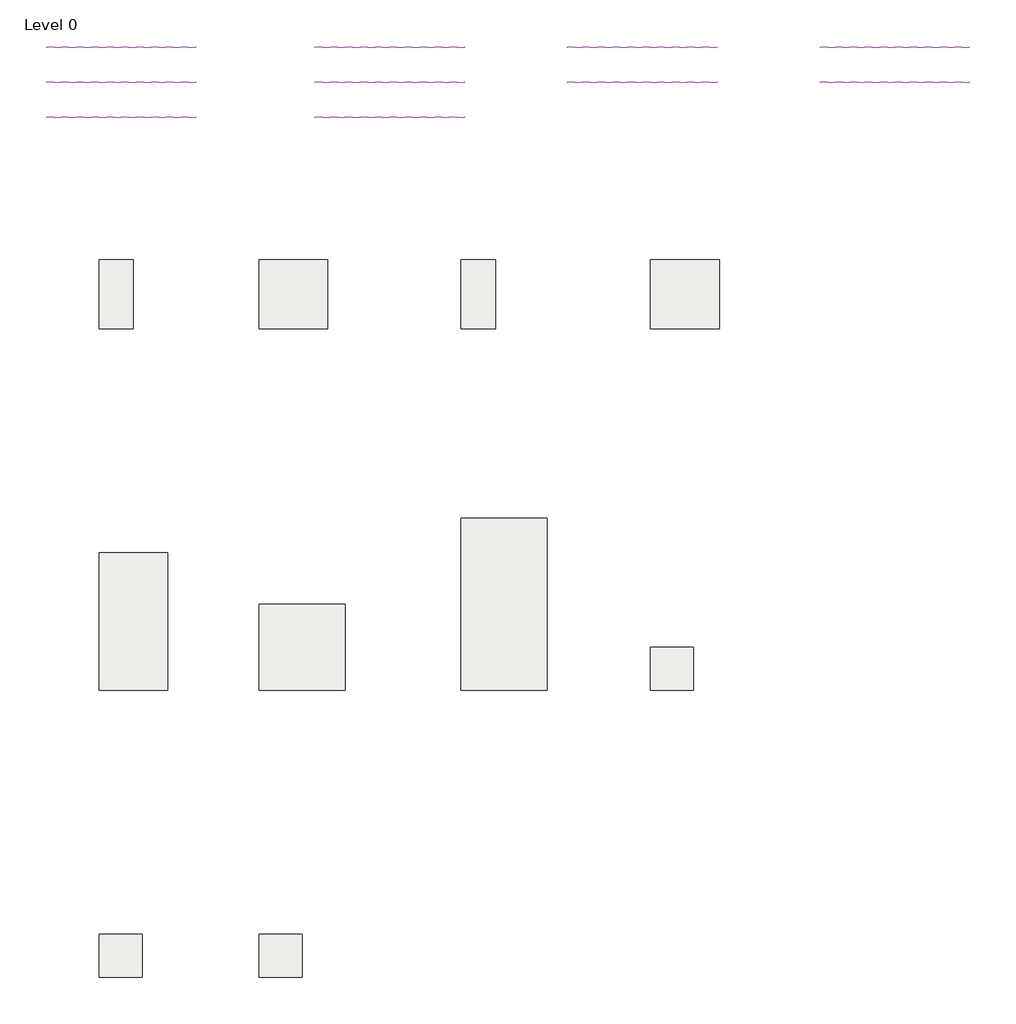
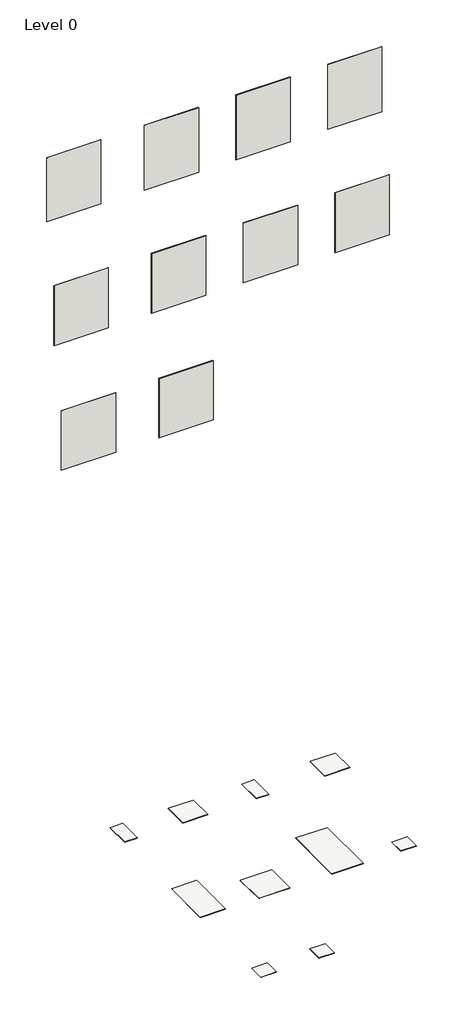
# One storey: 10 slabs, 10 walls.
"""IFC4 building model written with IfcOpenShell, lengths in millimetres."""

from ifc_helpers import new_model, si_unit, frame, origin, place, context, project, spatial, polyline, outline, extrude, element, save

model = new_model("IFC4")

# Units and contexts
model_context = context("Model", 3, world=origin())
ifc_project = project(units=[si_unit("LENGTHUNIT", "METRE", prefix="MILLI")], contexts=[model_context])

# Site, building, storey
site = spatial("IfcSite", under=ifc_project)
building = spatial("IfcBuilding", under=site)
storey = spatial("IfcBuildingStorey", under=building, Name="Level 0", Elevation=0.0)

# Slabs
placement = place(None, origin())
element("IfcSlab", 1, ObjectType="Floor_Tiles_Refin-Stardust-Deep-30x60 NC72", at=placement, inside=storey, context=model_context, shape_type="SweptSolid", body=[
    extrude(outline(polyline([(6674.3752062, 6289.4623743), (6674.3752062, 5689.4623743), (6374.3752062, 5689.4623743), (6374.3752062, 6289.4623743), (6674.3752062, 6289.4623743)])), frame((0.0, 0.0, -10.0), z_axis=(0.0, 0.0, 1.0), x_axis=(1.0, 0.0, 0.0)), (0.0, 0.0, 1.0), 10.0),
])
element("IfcSlab", 2, ObjectType="Floor_Tiles_Refin-Stardust-Deep-60x60 NC06", at=placement, inside=storey, context=model_context, shape_type="SweptSolid", body=[
    extrude(outline(polyline([(8367.3924055, 6288.4192064), (8367.3924055, 5688.4192064), (7767.3924055, 5688.4192064), (7767.3924055, 6288.4192064), (8367.3924055, 6288.4192064)])), frame((0.0, 0.0, -10.0), z_axis=(0.0, 0.0, 1.0), x_axis=(1.0, 0.0, 0.0)), (0.0, 0.0, 1.0), 10.0),
])
element("IfcSlab", 3, ObjectType="Floor_Tiles_Refin-Stardust-Deep-Soft-30x60 NC73", at=placement, inside=storey, context=model_context, shape_type="SweptSolid", body=[
    extrude(outline(polyline([(9827.1861419, 6289.4623743), (9827.1861419, 5689.4623743), (9527.1861419, 5689.4623743), (9527.1861419, 6289.4623743), (9827.1861419, 6289.4623743)])), frame((0.0, 0.0, -10.0), z_axis=(0.0, 0.0, 1.0), x_axis=(1.0, 0.0, 0.0)), (0.0, 0.0, 1.0), 10.0),
])
element("IfcSlab", 4, ObjectType="Floor_Tiles_Refin-Stardust-Deep-Soft-60x60 NC07", at=placement, inside=storey, context=model_context, shape_type="SweptSolid", body=[
    extrude(outline(polyline([(11777.1861419, 6289.4623743), (11777.1861419, 5689.4623743), (11177.1861419, 5689.4623743), (11177.1861419, 6289.4623743), (11777.1861419, 6289.4623743)])), frame((0.0, 0.0, -10.0), z_axis=(0.0, 0.0, 1.0), x_axis=(1.0, 0.0, 0.0)), (0.0, 0.0, 1.0), 10.0),
])
element("IfcSlab", 5, ObjectType="Floor_Tiles_Refin-Stardust-Deep-Soft-75x75 NA76", at=placement, inside=storey, context=model_context, shape_type="SweptSolid", body=[
    extrude(outline(polyline([(8517.3924055, 3289.4623743), (8517.3924055, 2539.4623743), (7767.3924055, 2539.4623743), (7767.3924055, 3289.4623743), (8517.3924055, 3289.4623743)])), frame((0.0, 0.0, -10.0), z_axis=(0.0, 0.0, 1.0), x_axis=(1.0, 0.0, 0.0)), (0.0, 0.0, 1.0), 10.0),
])
element("IfcSlab", 6, ObjectType="Floor_Tiles_Refin-Stardust-Deep-Soft-75x150 MK03", at=placement, inside=storey, context=model_context, shape_type="SweptSolid", body=[
    extrude(outline(polyline([(10277.1861419, 4039.4623743), (10277.1861419, 2539.4623743), (9527.1861419, 2539.4623743), (9527.1861419, 4039.4623743), (10277.1861419, 4039.4623743)])), frame((0.0, 0.0, -10.0), z_axis=(0.0, 0.0, 1.0), x_axis=(1.0, 0.0, 0.0)), (0.0, 0.0, 1.0), 10.0),
])
element("IfcSlab", 7, ObjectType="Floor_Tiles_Refin-Stardust-Deep-Mosaico-Argento-Soft-37.5x37.5 NA45", at=placement, inside=storey, context=model_context, shape_type="SweptSolid", body=[
    extrude(outline(polyline([(11552.1861419, 2914.4623743), (11552.1861419, 2539.4623743), (11177.1861419, 2539.4623743), (11177.1861419, 2914.4623743), (11552.1861419, 2914.4623743)])), frame((0.0, 0.0, -10.0), z_axis=(0.0, 0.0, 1.0), x_axis=(1.0, 0.0, 0.0)), (0.0, 0.0, 1.0), 10.0),
])
element("IfcSlab", 8, ObjectType="Floor_Tiles_Refin-Stardust-Deep-Soft-60x120 ND48", at=placement, inside=storey, context=model_context, shape_type="SweptSolid", body=[
    extrude(outline(polyline([(6974.3752062, 3739.4623743), (6974.3752062, 2539.4623743), (6374.3752062, 2539.4623743), (6374.3752062, 3739.4623743), (6974.3752062, 3739.4623743)])), frame((0.0, 0.0, -10.0), z_axis=(0.0, 0.0, 1.0), x_axis=(1.0, 0.0, 0.0)), (0.0, 0.0, 1.0), 10.0),
])
element("IfcSlab", 9, ObjectType="Floor_Tiles_Refin-Stardust-Deep-Mosaico-Bronzo-Soft-37.5x37.5 NA45", at=placement, inside=storey, context=model_context, shape_type="SweptSolid", body=[
    extrude(outline(polyline([(6749.3752062, 414.4623743), (6749.3752062, 39.4623743), (6374.3752062, 39.4623743), (6374.3752062, 414.4623743), (6749.3752062, 414.4623743)])), frame((0.0, 0.0, -10.0), z_axis=(0.0, 0.0, 1.0), x_axis=(1.0, 0.0, 0.0)), (0.0, 0.0, 1.0), 10.0),
])
element("IfcSlab", 10, ObjectType="Floor_Tiles_Refin-Stardust-Deep-Mosaico-Oro-Soft-37.5x37.5 NA45", at=placement, inside=storey, context=model_context, shape_type="SweptSolid", body=[
    extrude(outline(polyline([(8142.3924055, 414.4623743), (8142.3924055, 39.4623743), (7767.3924055, 39.4623743), (7767.3924055, 414.4623743), (8142.3924055, 414.4623743)])), frame((0.0, 0.0, -10.0), z_axis=(0.0, 0.0, 1.0), x_axis=(1.0, 0.0, 0.0)), (0.0, 0.0, 1.0), 10.0),
])

# Walls
element("IfcWall", 11, ObjectType="Wall_Tiles_Refin-Stardust-Deep-60x60 NC06", at=placement, inside=storey, context=model_context, shape_type="SweptSolid", body=[
    extrude(outline(polyline([(9557.3752062, 8132.3838631), (8257.3752062, 8132.3838631), (8257.3752062, 8142.3838631), (9557.3752062, 8142.3838631), (9557.3752062, 8132.3838631)])), frame((0.0, 0.0, 14387.6770443), z_axis=(0.0, 0.0, 1.0), x_axis=(1.0, 0.0, 0.0)), (0.0, 0.0, 1.0), 1641.7417352),
])
element("IfcWall", 12, ObjectType="Wall_Tiles_Refin-Stardust-Deep-Soft-30x60 NC73", at=placement, inside=storey, context=model_context, shape_type="SweptSolid", body=[
    extrude(outline(polyline([(11757.3752062, 8132.3838631), (10457.3752062, 8132.3838631), (10457.3752062, 8142.3838631), (11757.3752062, 8142.3838631), (11757.3752062, 8132.3838631)])), frame((0.0, 0.0, 14387.6770443), z_axis=(0.0, 0.0, 1.0), x_axis=(1.0, 0.0, 0.0)), (0.0, 0.0, 1.0), 1641.7417352),
])
element("IfcWall", 13, ObjectType="Wall_Tiles_Refin-Stardust-Deep-30x60 NC72", at=placement, inside=storey, context=model_context, shape_type="SweptSolid", body=[
    extrude(outline(polyline([(7217.3752062, 8132.3838631), (5917.3752062, 8132.3838631), (5917.3752062, 8142.3838631), (7217.3752062, 8142.3838631), (7217.3752062, 8132.3838631)])), frame((0.0, 0.0, 14403.7267346), z_axis=(0.0, 0.0, 1.0), x_axis=(1.0, 0.0, 0.0)), (0.0, 0.0, 1.0), 1625.692045),
])
element("IfcWall", 14, ObjectType="Wall_Tiles_Refin-Stardust-Deep-Soft-60x120 ND48", at=placement, inside=storey, context=model_context, shape_type="SweptSolid", body=[
    extrude(outline(polyline([(7217.3752062, 7827.3838631), (5917.3752062, 7827.3838631), (5917.3752062, 7837.3838631), (7217.3752062, 7837.3838631), (7217.3752062, 7827.3838631)])), frame((0.0, 0.0, 11452.5436262), z_axis=(0.0, 0.0, 1.0), x_axis=(1.0, 0.0, 0.0)), (0.0, 0.0, 1.0), 1513.1985566),
])
element("IfcWall", 15, ObjectType="Wall_Tiles_Refin-Stardust-Deep-Soft-75x75 NA76", at=placement, inside=storey, context=model_context, shape_type="SweptSolid", body=[
    extrude(outline(polyline([(9557.3752062, 7827.3838631), (8257.3752062, 7827.3838631), (8257.3752062, 7837.3838631), (9557.3752062, 7837.3838631), (9557.3752062, 7827.3838631)])), frame((0.0, 0.0, 11452.5436262), z_axis=(0.0, 0.0, 1.0), x_axis=(1.0, 0.0, 0.0)), (0.0, 0.0, 1.0), 1513.1985566),
])
element("IfcWall", 16, ObjectType="Wall_Tiles_Refin-Stardust-Deep-Soft-75x150 MK03", at=placement, inside=storey, context=model_context, shape_type="SweptSolid", body=[
    extrude(outline(polyline([(11757.3752062, 7827.3838631), (10457.3752062, 7827.3838631), (10457.3752062, 7837.3838631), (11757.3752062, 7837.3838631), (11757.3752062, 7827.3838631)])), frame((0.0, 0.0, 11452.5436262), z_axis=(0.0, 0.0, 1.0), x_axis=(1.0, 0.0, 0.0)), (0.0, 0.0, 1.0), 1513.1985566),
])
element("IfcWall", 17, ObjectType="Wall_Tiles_Refin-Stardust-Deep-Mosaico-Bronzo-Soft-37.5x37.5 NA45", at=placement, inside=storey, context=model_context, shape_type="SweptSolid", body=[
    extrude(outline(polyline([(7217.3752062, 7522.3838631), (5917.3752062, 7522.3838631), (5917.3752062, 7532.3838631), (7217.3752062, 7532.3838631), (7217.3752062, 7522.3838631)])), frame((0.0, 0.0, 8479.1027214), z_axis=(0.0, 0.0, 1.0), x_axis=(1.0, 0.0, 0.0)), (0.0, 0.0, 1.0), 1502.5740159),
])
element("IfcWall", 18, ObjectType="Wall_Tiles_Refin-Stardust-Deep-Mosaico-Oro-Soft-37.5x37.5 NA45", at=placement, inside=storey, context=model_context, shape_type="SweptSolid", body=[
    extrude(outline(polyline([(9557.3752062, 7522.3838631), (8257.3752062, 7522.3838631), (8257.3752062, 7532.3838631), (9557.3752062, 7532.3838631), (9557.3752062, 7522.3838631)])), frame((0.0, 0.0, 8479.1027214), z_axis=(0.0, 0.0, 1.0), x_axis=(1.0, 0.0, 0.0)), (0.0, 0.0, 1.0), 1502.5740159),
])
element("IfcWall", 19, ObjectType="Wall_Tiles_Refin-Stardust-Deep-Soft-60x60 NC07", at=placement, inside=storey, context=model_context, shape_type="SweptSolid", body=[
    extrude(outline(polyline([(13957.3752062, 8132.3838631), (12657.3752062, 8132.3838631), (12657.3752062, 8142.3838631), (13957.3752062, 8142.3838631), (13957.3752062, 8132.3838631)])), frame((0.0, 0.0, 14387.6770443), z_axis=(0.0, 0.0, 1.0), x_axis=(1.0, 0.0, 0.0)), (0.0, 0.0, 1.0), 1641.7417352),
])
element("IfcWall", 20, ObjectType="Wall_Tiles_Refin-Stardust-Deep-Mosaico-Argento-Soft-37.5x37.5 NA45", at=placement, inside=storey, context=model_context, shape_type="SweptSolid", body=[
    extrude(outline(polyline([(13957.3752062, 7827.3838631), (12657.3752062, 7827.3838631), (12657.3752062, 7837.3838631), (13957.3752062, 7837.3838631), (13957.3752062, 7827.3838631)])), frame((0.0, 0.0, 11452.5436262), z_axis=(0.0, 0.0, 1.0), x_axis=(1.0, 0.0, 0.0)), (0.0, 0.0, 1.0), 1513.1985566),
])

save(model, "model.ifc")
